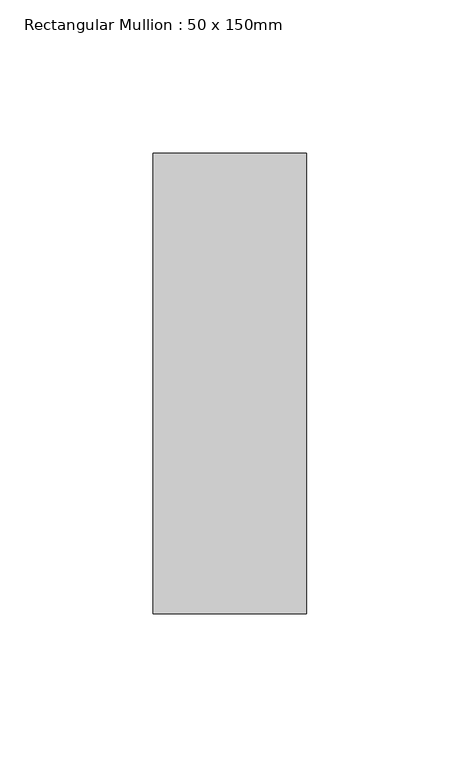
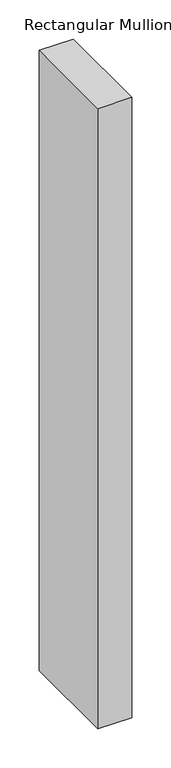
"""IFC4 building model written with IfcOpenShell, lengths in millimetres: member geometry, Rectangular Mullion : 50 x 150mm."""

from ifc_helpers import new_model, si_unit, frame, origin, place, context, project, spatial, polyline, outline, extrude, source, transform, mapped, element, save


def rectangular_mullion_50_x_150mm_cc4d4c51(model_context):
    return source(origin(), model_context, "Body", "SweptSolid", [
        extrude(outline(polyline([(0.0, 75.0), (0.0, -75.0), (-50.0, -75.0), (-50.0, 75.0), (0.0, 75.0)])), frame((0.0, 0.0, -966.8785033), z_axis=(0.0, 0.0, 1.0), x_axis=(1.0, 0.0, 0.0)), (0.0, 0.0, 1.0), 966.8785033),
    ])


if __name__ == "__main__":
    model = new_model("IFC4")
    model_context = context("Model", 3, world=origin())
    ifc_project = project(units=[si_unit("LENGTHUNIT", "METRE", prefix="MILLI")], contexts=[model_context])
    site = spatial("IfcSite", under=ifc_project)
    building = spatial("IfcBuilding", under=site)
    placement = place(None, origin())
    rectangular_mullion_50_x_150mm_shape = rectangular_mullion_50_x_150mm_cc4d4c51(model_context)
    element("IfcMember", 1, ObjectType="Rectangular Mullion : 50 x 150mm", at=placement, inside=building, context=model_context, shape_type="MappedRepresentation", body=[
        mapped(rectangular_mullion_50_x_150mm_shape, transform((0.0, 0.0, 0.0), x_axis=(1.0, 0.0, 0.0), y_axis=(0.0, 1.0, 0.0), z_axis=(0.0, 0.0, 1.0))),
    ])
    save(model, "model.ifc")
